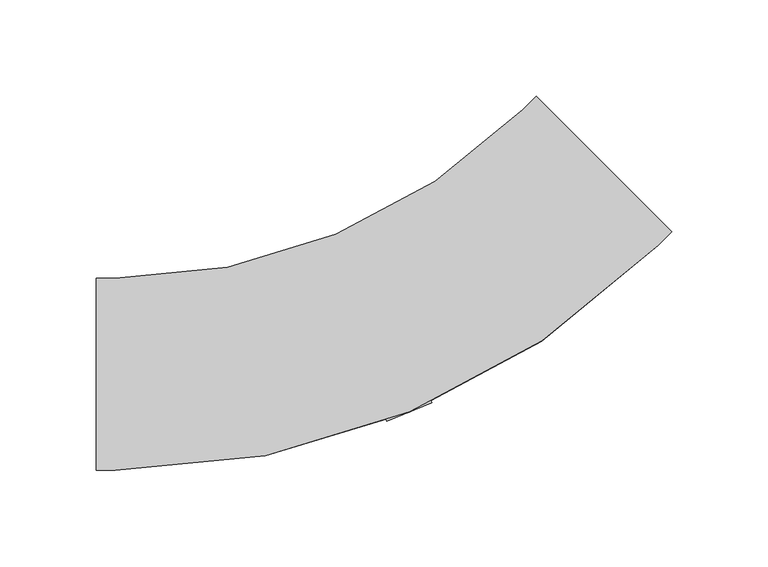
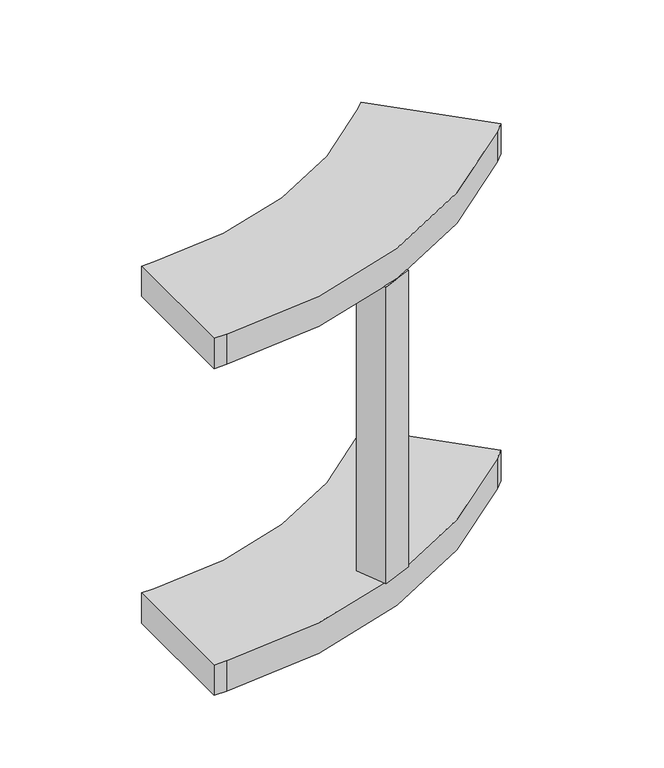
"""IFC4 building model written with IfcOpenShell, lengths in millimetres: cable carrier fitting geometry, ADSK_Поворот вертикальный внутренний_Лестничный лоток : Радиус 300 мм."""

import ifcopenshell
import ifcopenshell.guid

model = None  # the IFC model being written
_history = None  # IfcOwnerHistory: only IFC2X3 demands one
_inside = {}  # id of a spatial element -> (the spatial element, [elements in it])
_under = {}  # id of a project, library or spatial element -> (it, [spatial elements below it])
_declared = {}  # id of a project -> (the project, [libraries it declares])
_typed = {}  # id of a type object -> (the type object, [elements of that type])
_made_of = {}  # id of a material, layer set ... -> (it, [elements and type objects made of it])


def new_model(schema):
    """Start an empty IFC model of exactly this schema.

    Asked for "IFC4X3", IfcOpenShell would pick the latest addendum, in which some entities
    have other attributes; the version numbers below select the first issue.
    IFC2X3 requires an IfcOwnerHistory on every rooted entity: one is made here for all.
    """
    global model, _history
    if schema == "IFC4X3":
        model = ifcopenshell.file(schema_version=(4, 3, 0, 0))
    else:
        model = ifcopenshell.file(schema=schema)
    _inside.clear()
    _under.clear()
    _declared.clear()
    _typed.clear()
    _made_of.clear()
    _history = None
    if model.schema == "IFC2X3":
        org = make("IfcOrganization", Name="unknown")
        user = make(
            "IfcPersonAndOrganization",
            ThePerson=make("IfcPerson", FamilyName="unknown"),
            TheOrganization=org,
        )
        app = make(
            "IfcApplication",
            ApplicationDeveloper=org,
            Version="unknown",
            ApplicationFullName="unknown",
            ApplicationIdentifier="unknown",
        )
        _history = make(
            "IfcOwnerHistory",
            OwningUser=user,
            OwningApplication=app,
            ChangeAction="ADDED",
            CreationDate=0,
        )
    return model


def make(cls, **values):
    """One entity of the class cls with the attributes given. An attribute that is None is left unset."""
    return model.create_entity(
        cls, **{name: value for name, value in values.items() if value is not None}
    )


def rooted(cls, **values):
    """An entity with a GlobalId (a new one), such as an element, a storey or a relation."""
    return make(cls, GlobalId=ifcopenshell.guid.new(), OwnerHistory=_history, **values)


def si_unit(unit_type, name, prefix=None):
    """IfcSIUnit, for example si_unit("LENGTHUNIT", "METRE", prefix="MILLI")."""
    return make("IfcSIUnit", UnitType=unit_type, Prefix=prefix, Name=name)


def assignment(units):
    """IfcUnitAssignment: the units of a project."""
    return None if units is None else make("IfcUnitAssignment", Units=units)


def point(xyz):
    """IfcCartesianPoint."""
    return None if xyz is None else make("IfcCartesianPoint", Coordinates=xyz)


def direction(xyz):
    """IfcDirection."""
    return None if xyz is None else make("IfcDirection", DirectionRatios=xyz)


def frame(location, z_axis=None, x_axis=None):
    """IfcAxis2Placement3D, a coordinate frame: its origin and axes. An axis left out is left unset."""
    return make(
        "IfcAxis2Placement3D",
        Location=point(location),
        Axis=direction(z_axis),
        RefDirection=direction(x_axis),
    )


def frame_2d(location, x_axis=None):
    """IfcAxis2Placement2D, a coordinate frame in the plane: its origin and x axis."""
    return make(
        "IfcAxis2Placement2D", Location=point(location), RefDirection=direction(x_axis)
    )


def origin():
    """The frame at (0, 0, 0) with its axes left unset."""
    return frame((0.0, 0.0, 0.0))


def place(relative_to, where):
    """IfcLocalPlacement: puts the frame where relative to a parent placement (None: the world)."""
    return make(
        "IfcLocalPlacement", PlacementRelTo=relative_to, RelativePlacement=where
    )


def context(
    kind, dimensions, precision=None, world=None, true_north=None, identifier=None
):
    """IfcGeometricRepresentationContext, for example the 3D "Model" context."""
    return make(
        "IfcGeometricRepresentationContext",
        ContextIdentifier=identifier,
        ContextType=kind,
        CoordinateSpaceDimension=dimensions,
        Precision=precision,
        WorldCoordinateSystem=world,
        TrueNorth=true_north,
    )


def project(units=None, contexts=None):
    """IfcProject with its units and contexts."""
    return rooted(
        "IfcProject",
        Name="project",
        RepresentationContexts=contexts,
        UnitsInContext=assignment(units),
    )


def spatial(cls, under=None, at=None, **own):
    """A site, building, storey or space (cls), placed at a placement, below another one or the project."""
    s = rooted(cls, ObjectPlacement=at, **own)
    if under is not None:
        _under.setdefault(under.id(), (under, []))[1].append(s)
    return s


def polyline(points):
    """IfcPolyline through the points."""
    return make("IfcPolyline", Points=[point(p) for p in points])


def circle_curve(where, radius):
    """IfcCircle in the frame where."""
    return make("IfcCircle", Position=where, Radius=radius)


def trimmed(basis, trim1, trim2, sense, master):
    """IfcTrimmedCurve: the piece of a basis curve between two trims."""
    return make(
        "IfcTrimmedCurve",
        BasisCurve=basis,
        Trim1=trim1,
        Trim2=trim2,
        SenseAgreement=sense,
        MasterRepresentation=master,
    )


def segment(curve, same_sense, transition):
    """IfcCompositeCurveSegment."""
    return make(
        "IfcCompositeCurveSegment",
        Transition=transition,
        SameSense=same_sense,
        ParentCurve=curve,
    )


def composite_curve(segments, self_intersect=None):
    """IfcCompositeCurve: segments joined end to end."""
    return make("IfcCompositeCurve", Segments=segments, SelfIntersect=self_intersect)


def outline(outer, holes=None, kind="AREA"):
    """IfcArbitraryClosedProfileDef: a profile drawn as a closed curve; with holes, ...WithVoids."""
    if holes is None:
        return make("IfcArbitraryClosedProfileDef", ProfileType=kind, OuterCurve=outer)
    return make(
        "IfcArbitraryProfileDefWithVoids",
        ProfileType=kind,
        OuterCurve=outer,
        InnerCurves=holes,
    )


def extrude(swept, where, along, depth):
    """IfcExtrudedAreaSolid: the profile swept, set in the frame where, extruded along a direction by depth."""
    return make(
        "IfcExtrudedAreaSolid",
        SweptArea=swept,
        Position=where,
        ExtrudedDirection=direction(along),
        Depth=depth,
    )


def shape(context_of_items, identifier, shape_type, items):
    """IfcShapeRepresentation: the items that make up one representation, for example the "Body"."""
    return make(
        "IfcShapeRepresentation",
        ContextOfItems=context_of_items,
        RepresentationIdentifier=identifier,
        RepresentationType=shape_type,
        Items=items,
    )


def source(mapping_origin, context_of_items, identifier, shape_type, items):
    """IfcRepresentationMap: a shape defined once, which mapped items show again and again."""
    return make(
        "IfcRepresentationMap",
        MappingOrigin=mapping_origin,
        MappedRepresentation=shape(context_of_items, identifier, shape_type, items),
    )


def transform(
    local_origin,
    x_axis=None,
    y_axis=None,
    z_axis=None,
    scale=None,
    scale2=None,
    scale3=None,
    uniform=True,
):
    """IfcCartesianTransformationOperator3D, or its non-uniform kind. x_axis, y_axis, z_axis: its Axis1, 2, 3."""
    if uniform:
        return make(
            "IfcCartesianTransformationOperator3D",
            Axis1=direction(x_axis),
            Axis2=direction(y_axis),
            LocalOrigin=point(local_origin),
            Scale=scale,
            Axis3=direction(z_axis),
        )
    return make(
        "IfcCartesianTransformationOperator3DnonUniform",
        Axis1=direction(x_axis),
        Axis2=direction(y_axis),
        LocalOrigin=point(local_origin),
        Scale=scale,
        Axis3=direction(z_axis),
        Scale2=scale2,
        Scale3=scale3,
    )


def mapped(mapping_source, mapping_target):
    """IfcMappedItem: shows the shape of a source again, moved by a transform."""
    return make(
        "IfcMappedItem", MappingSource=mapping_source, MappingTarget=mapping_target
    )


def made_of(thing, what):
    """Note that an element or type object is made of a material, layer set ...; save() writes the relation."""
    if what is not None:
        _made_of.setdefault(what.id(), (what, []))[1].append(thing)
    return thing


def element(
    cls,
    number,
    at=None,
    inside=None,
    cuts=None,
    type_object=None,
    material=None,
    context=None,
    identifier="Body",
    shape_type=None,
    held_by="IfcProductDefinitionShape",
    body=None,
    shapes=None,
    **own,
):
    """One element of the class cls, such as IfcWall. Its Tag is "e" and its number.

    at: its placement. inside: the storey or other place that contains it. cuts: it is an
    opening in that element (IfcRelVoidsElement). A single representation is given by context,
    identifier, shape_type and body (its items); several are given by shapes. held_by: the class
    of the entity that holds the representations. save() writes the other relations.
    """
    e = rooted(cls, Tag="e%d" % number, ObjectPlacement=at, **own)
    if body is not None:
        shapes = [shape(context, identifier, shape_type, body)]
    if shapes is not None:
        e.Representation = make(held_by, Representations=shapes)
    if inside is not None:
        _inside.setdefault(inside.id(), (inside, []))[1].append(e)
    if cuts is not None:
        rooted(
            "IfcRelVoidsElement", RelatingBuildingElement=cuts, RelatedOpeningElement=e
        )
    if type_object is not None:
        _typed.setdefault(type_object.id(), (type_object, []))[1].append(e)
    return made_of(e, material)


def aggregate(whole, parts):
    """IfcRelAggregates: a whole, such as a stair, and the parts it consists of."""
    return rooted("IfcRelAggregates", RelatingObject=whole, RelatedObjects=parts)


def save(model, path):
    """Write the relations noted so far, then the file.

    IfcRelAggregates (storeys below a building ...), IfcRelContainedInSpatialStructure (elements
    in a storey), IfcRelDefinesByType, IfcRelAssociatesMaterial and IfcRelDeclares: one each for
    every whole, place, type object, material and project.
    """
    for whole, parts in _under.values():
        aggregate(whole, parts)
    for where, things in _inside.values():
        rooted(
            "IfcRelContainedInSpatialStructure",
            RelatedElements=things,
            RelatingStructure=where,
        )
    for kind, things in _typed.values():
        rooted("IfcRelDefinesByType", RelatedObjects=things, RelatingType=kind)
    for what, things in _made_of.values():
        rooted("IfcRelAssociatesMaterial", RelatedObjects=things, RelatingMaterial=what)
    for by, libraries in _declared.values():
        rooted("IfcRelDeclares", RelatingContext=by, RelatedDefinitions=libraries)
    model.write(path)


def cable_carrier_fitting_ead96cba(model_context):
    return source(origin(), model_context, "Body", "SweptSolid", [
        extrude(outline(polyline([(10.111737, 8.7748067), (19.8318962, -14.6917334), (-3.6346439, -24.4118926), (-13.3548031, -0.9453525), (10.111737, 8.7748067)])), frame((0.0, 0.0, -124.6), z_axis=(0.0, 0.0, 1.0), x_axis=(1.0, 0.0, 0.0)), (0.0, 0.0, 1.0), 249.2),
        extrude(outline(composite_curve([segment(polyline([(-154.9747468, -50.0), (-154.9747468, 50.0), (-144.9747468, 50.0)]), True, "CONTINUOUS"), segment(trimmed(circle_curve(frame_2d((-144.9747468, 350.0)), 300.0), [point((-144.9747468, 50.0))], [point((67.1572875, 137.8679656))], True, "CARTESIAN"), True, "CONTINUOUS"), segment(polyline([(67.1572875, 137.8679656), (74.2283553, 144.9390335), (144.9390335, 74.2283553), (137.8679656, 67.1572875)]), True, "CONTINUOUS"), segment(trimmed(circle_curve(frame_2d((-144.9747468, 350.0)), 400.0), [point((137.8679656, 67.1572875))], [point((-144.9747468, -50.0))], False, "CARTESIAN"), True, "CONTINUOUS"), segment(polyline([(-144.9747468, -50.0), (-154.9747468, -50.0)]), True, "CONTINUOUS")], self_intersect=False)), frame((0.0, 0.0, 124.6), z_axis=(0.0, 0.0, 1.0), x_axis=(1.0, 0.0, 0.0)), (0.0, 0.0, 1.0), 25.4),
        extrude(outline(composite_curve([segment(polyline([(-154.9747468, -50.0), (-154.9747468, 50.0), (-144.9747468, 50.0)]), True, "CONTINUOUS"), segment(trimmed(circle_curve(frame_2d((-144.9747468, 350.0)), 300.0), [point((-144.9747468, 50.0))], [point((67.1572875, 137.8679656))], True, "CARTESIAN"), True, "CONTINUOUS"), segment(polyline([(67.1572875, 137.8679656), (74.2283553, 144.9390335), (144.9390335, 74.2283553), (137.8679656, 67.1572875)]), True, "CONTINUOUS"), segment(trimmed(circle_curve(frame_2d((-144.9747468, 350.0)), 400.0), [point((137.8679656, 67.1572875))], [point((-144.9747468, -50.0))], False, "CARTESIAN"), True, "CONTINUOUS"), segment(polyline([(-144.9747468, -50.0), (-154.9747468, -50.0)]), True, "CONTINUOUS")], self_intersect=False)), frame((0.0, 0.0, -150.0), z_axis=(0.0, 0.0, 1.0), x_axis=(1.0, 0.0, 0.0)), (0.0, 0.0, 1.0), 25.4),
    ])


if __name__ == "__main__":
    model = new_model("IFC4")
    model_context = context("Model", 3, world=origin())
    ifc_project = project(units=[si_unit("LENGTHUNIT", "METRE", prefix="MILLI")], contexts=[model_context])
    site = spatial("IfcSite", under=ifc_project)
    building = spatial("IfcBuilding", under=site)
    placement = place(None, origin())
    cable_carrier_fitting_shape = cable_carrier_fitting_ead96cba(model_context)
    element("IfcCableCarrierFitting", 1, ObjectType="ADSK_Поворот вертикальный внутренний_Лестничный лоток : Радиус 300 мм", at=placement, inside=building, context=model_context, shape_type="MappedRepresentation", body=[
        mapped(cable_carrier_fitting_shape, transform((0.0, 0.0, 0.0), x_axis=(1.0, 0.0, 0.0), y_axis=(0.0, 1.0, 0.0), z_axis=(0.0, 0.0, 1.0))),
    ])
    save(model, "model.ifc")
